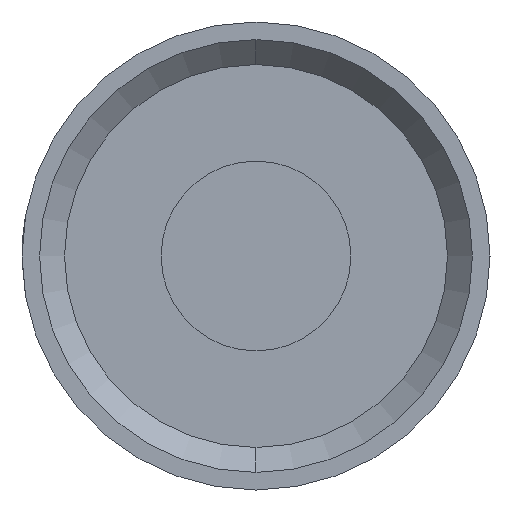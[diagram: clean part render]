
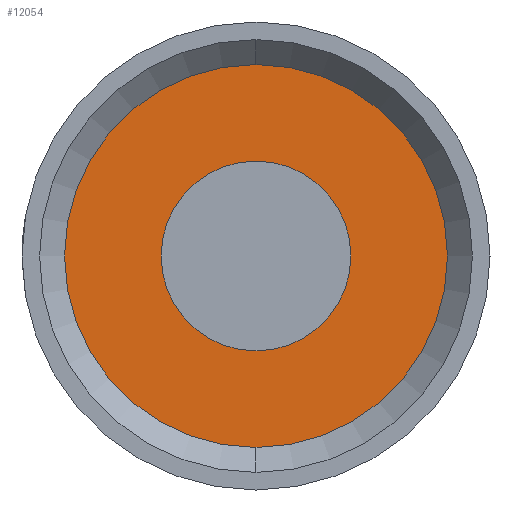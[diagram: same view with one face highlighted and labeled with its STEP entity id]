
A CAD part, left-side view. The second image highlights one B-rep face of the part: STEP entity #12054.
In plain terms, the highlighted planar face has unit normal (-1, 0, 0).
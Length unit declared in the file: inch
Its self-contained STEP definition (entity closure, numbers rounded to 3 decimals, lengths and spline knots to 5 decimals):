
#685 = AXIS2_PLACEMENT_3D ( 'NONE', #17704, #13130, #2245 ) ;
#926 = ORIENTED_EDGE ( 'NONE', *, *, #12200, .T. ) ;
#1068 = ORIENTED_EDGE ( 'NONE', *, *, #10833, .F. ) ;
#1441 = CARTESIAN_POINT ( 'NONE',  ( 0., 0., 0. ) ) ;
#2245 = DIRECTION ( 'NONE',  ( 0., 0., 1. ) ) ;
#2869 = CARTESIAN_POINT ( 'NONE',  ( 0., 0., 0. ) ) ;
#2903 = VERTEX_POINT ( 'NONE', #11064 ) ;
#3785 = DIRECTION ( 'NONE',  ( 0., 0., 1. ) ) ;
#3855 = AXIS2_PLACEMENT_3D ( 'NONE', #2869, #10402, #12125 ) ;
#4274 = EDGE_CURVE ( 'NONE', #19792, #17009, #19587, .T. ) ;
#5320 = DIRECTION ( 'NONE',  ( -1., 0., 0. ) ) ;
#5469 = AXIS2_PLACEMENT_3D ( 'NONE', #11228, #15810, #9698 ) ;
#6136 = DIRECTION ( 'NONE',  ( 0., 0., 1. ) ) ;
#6470 = PLANE ( 'NONE',  #5469 ) ;
#6744 = CARTESIAN_POINT ( 'NONE',  ( 0., 0., -0.057 ) ) ;
#7429 = CIRCLE ( 'NONE', #9366, 0.057 ) ;
#7876 = VERTEX_POINT ( 'NONE', #17905 ) ;
#7981 = FACE_OUTER_BOUND ( 'NONE', #11318, .T. ) ;
#9021 = CIRCLE ( 'NONE', #3855, 0.115 ) ;
#9366 = AXIS2_PLACEMENT_3D ( 'NONE', #9755, #5320, #3785 ) ;
#9698 = DIRECTION ( 'NONE',  ( 0., 0., -1. ) ) ;
#9755 = CARTESIAN_POINT ( 'NONE',  ( 0., 0., 0. ) ) ;
#9831 = ORIENTED_EDGE ( 'NONE', *, *, #4274, .F. ) ;
#10402 = DIRECTION ( 'NONE',  ( -1., 0., 0. ) ) ;
#10818 = AXIS2_PLACEMENT_3D ( 'NONE', #1441, #13853, #6136 ) ;
#10833 = EDGE_CURVE ( 'NONE', #17009, #19792, #7429, .T. ) ;
#11064 = CARTESIAN_POINT ( 'NONE',  ( 0., 0., 0.115 ) ) ;
#11228 = CARTESIAN_POINT ( 'NONE',  ( 0., 0.115, 0. ) ) ;
#11318 = EDGE_LOOP ( 'NONE', ( #12717, #926 ) ) ;
#12049 = CARTESIAN_POINT ( 'NONE',  ( 0., 0., 0.057 ) ) ;
#12054 = ADVANCED_FACE ( 'NONE', ( #12756, #7981 ), #6470, .F. ) ;
#12067 = CIRCLE ( 'NONE', #685, 0.115 ) ;
#12125 = DIRECTION ( 'NONE',  ( 0., 0., 1. ) ) ;
#12200 = EDGE_CURVE ( 'NONE', #7876, #2903, #9021, .T. ) ;
#12717 = ORIENTED_EDGE ( 'NONE', *, *, #17689, .T. ) ;
#12756 = FACE_BOUND ( 'NONE', #13801, .T. ) ;
#13130 = DIRECTION ( 'NONE',  ( -1., 0., 0. ) ) ;
#13801 = EDGE_LOOP ( 'NONE', ( #9831, #1068 ) ) ;
#13853 = DIRECTION ( 'NONE',  ( -1., 0., 0. ) ) ;
#15810 = DIRECTION ( 'NONE',  ( 1., 0., 0. ) ) ;
#17009 = VERTEX_POINT ( 'NONE', #6744 ) ;
#17689 = EDGE_CURVE ( 'NONE', #2903, #7876, #12067, .T. ) ;
#17704 = CARTESIAN_POINT ( 'NONE',  ( 0., 0., 0. ) ) ;
#17905 = CARTESIAN_POINT ( 'NONE',  ( 0., 0., -0.115 ) ) ;
#19587 = CIRCLE ( 'NONE', #10818, 0.057 ) ;
#19792 = VERTEX_POINT ( 'NONE', #12049 ) ;
